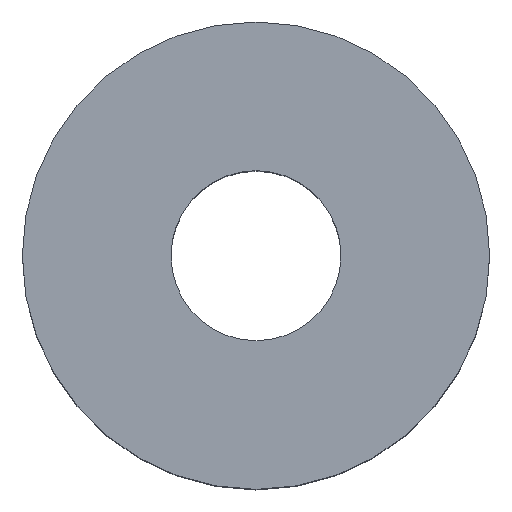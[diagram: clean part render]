
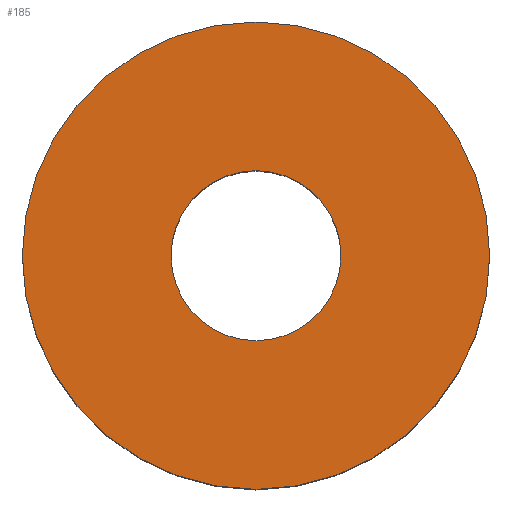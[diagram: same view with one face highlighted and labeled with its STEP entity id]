
A CAD part, top view. The second image highlights one B-rep face of the part: STEP entity #185.
In plain terms, the highlighted planar face has unit normal (0, 0, 1).
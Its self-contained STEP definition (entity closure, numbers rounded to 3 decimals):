
#185=ADVANCED_FACE('',(#211,#212),#209,.T.);
#209=PLANE('',#442);
#211=FACE_BOUND('',#215,.T.);
#212=FACE_BOUND('',#216,.T.);
#215=EDGE_LOOP('',(#241,#242));
#216=EDGE_LOOP('',(#243,#244));
#241=ORIENTED_EDGE('',*,*,#363,.T.);
#242=ORIENTED_EDGE('',*,*,#364,.T.);
#243=ORIENTED_EDGE('',*,*,#365,.F.);
#244=ORIENTED_EDGE('',*,*,#366,.F.);
#337=VERTEX_POINT('',#614);
#338=VERTEX_POINT('',#615);
#339=VERTEX_POINT('',#618);
#340=VERTEX_POINT('',#619);
#363=EDGE_CURVE('',#337,#338,#411,.T.);
#364=EDGE_CURVE('',#338,#337,#412,.T.);
#365=EDGE_CURVE('',#339,#340,#413,.T.);
#366=EDGE_CURVE('',#340,#339,#414,.T.);
#411=CIRCLE('',#438,11.);
#412=CIRCLE('',#439,11.);
#413=CIRCLE('',#440,4.);
#414=CIRCLE('',#441,4.);
#438=AXIS2_PLACEMENT_3D('',#613,#490,#491);
#439=AXIS2_PLACEMENT_3D('',#616,#492,#493);
#440=AXIS2_PLACEMENT_3D('',#617,#494,#495);
#441=AXIS2_PLACEMENT_3D('',#620,#496,#497);
#442=AXIS2_PLACEMENT_3D('',#621,#498,#499);
#490=DIRECTION('',(0.,0.,1.));
#491=DIRECTION('',(0.,-1.,0.));
#492=DIRECTION('',(0.,0.,1.));
#493=DIRECTION('',(0.,1.,0.));
#494=DIRECTION('',(0.,0.,1.));
#495=DIRECTION('',(0.,1.,0.));
#496=DIRECTION('',(0.,0.,1.));
#497=DIRECTION('',(0.,-1.,0.));
#498=DIRECTION('',(0.,0.,1.));
#499=DIRECTION('',(0.,-1.,0.));
#613=CARTESIAN_POINT('',(0.,0.,16.));
#614=CARTESIAN_POINT('',(11.,0.,16.));
#615=CARTESIAN_POINT('',(-11.,0.,16.));
#616=CARTESIAN_POINT('',(0.,0.,16.));
#617=CARTESIAN_POINT('',(0.,0.,16.));
#618=CARTESIAN_POINT('',(-4.,0.,16.));
#619=CARTESIAN_POINT('',(4.,0.,16.));
#620=CARTESIAN_POINT('',(0.,0.,16.));
#621=CARTESIAN_POINT('',(0.,0.,16.));
